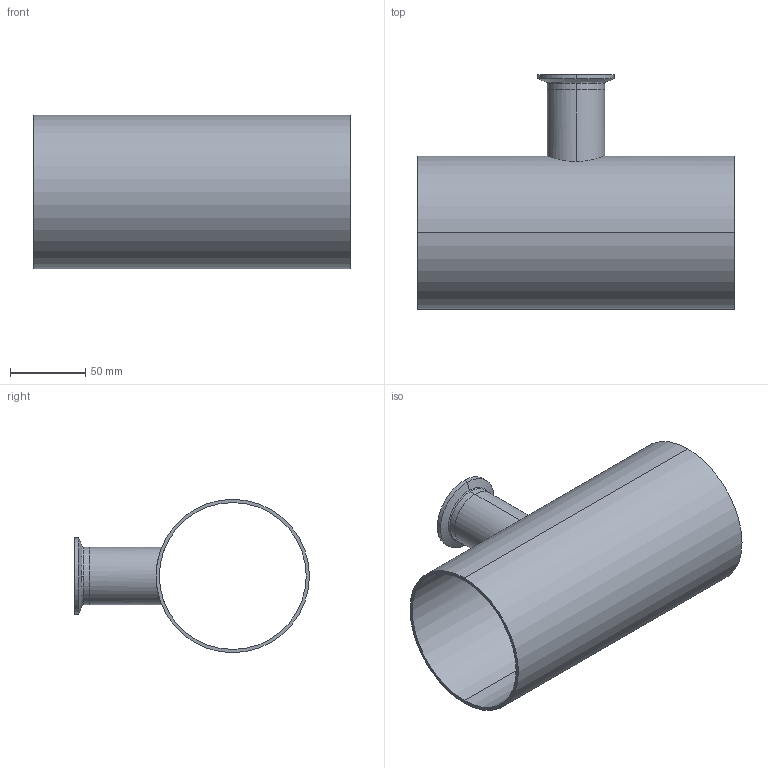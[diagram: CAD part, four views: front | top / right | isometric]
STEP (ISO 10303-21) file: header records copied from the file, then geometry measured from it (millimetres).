
FILE_DESCRIPTION (( 'STEP AP214' ), '1' );
FILE_NAME ('TE7RWWC6L4.0x1.5-...STEP', '2016-05-23T09:32:58', ( 'eran' ), ( '' ), 'SwSTEP 2.0', 'SolidWorks 2016', '' );
FILE_SCHEMA (( 'AUTOMOTIVE_DESIGN' ));
Length unit declared in the file: millimetre
Products named in the file (1): TE7RWWC6L4.0x1.5-..
Bounding box: 209.6 x 155.6 x 101.6 mm (x, y, z)
Volume: 149877.9 mm3; surface area: 145413.4 mm2
Topology: 2 solids, 2 shells, 36 faces, 88 edges, 58 vertices
Faces by surface type: cylinder 14, bspline 10, plane 6, cone 6
Entity records: 1966 total; most frequent: CARTESIAN_POINT 1061, DIRECTION 190, ORIENTED_EDGE 176, EDGE_CURVE 88, AXIS2_PLACEMENT_3D 85, CIRCLE 58, VERTEX_POINT 58, EDGE_LOOP 44
